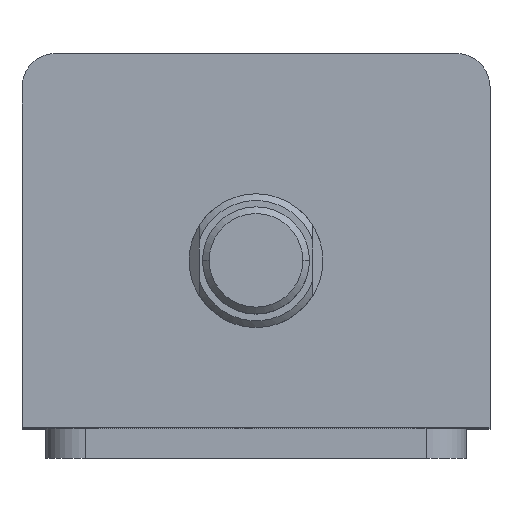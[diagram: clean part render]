
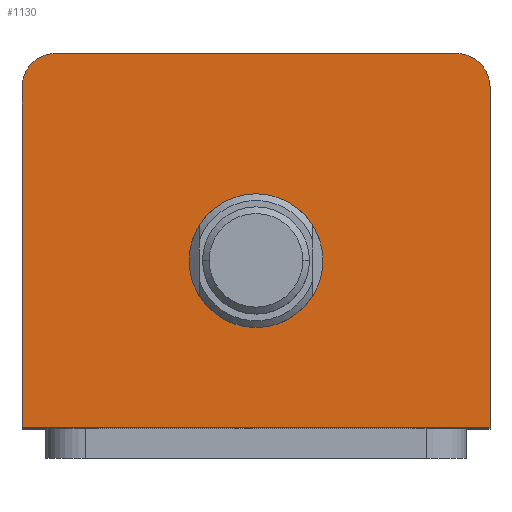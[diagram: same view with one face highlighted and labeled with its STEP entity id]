
A CAD part, top view. The second image highlights one B-rep face of the part: STEP entity #1130.
In plain terms, the highlighted planar face has unit normal (0, 0, 1).
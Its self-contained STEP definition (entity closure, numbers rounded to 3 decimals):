
#639 = CARTESIAN_POINT ( 'NONE',  ( 10., -3., 109. ) ) ;
#644 = CARTESIAN_POINT ( 'NONE',  ( 35., 23., 109. ) ) ;
#674 = CARTESIAN_POINT ( 'NONE',  ( 35., -28., 109. ) ) ;
#724 = CARTESIAN_POINT ( 'NONE',  ( -10., -3., 109. ) ) ;
#793 = CARTESIAN_POINT ( 'NONE',  ( -35., 23., 109. ) ) ;
#798 = CARTESIAN_POINT ( 'NONE',  ( -35., -28., 109. ) ) ;
#800 = CARTESIAN_POINT ( 'NONE',  ( -30., 28., 109. ) ) ;
#810 = CARTESIAN_POINT ( 'NONE',  ( 30., 28., 109. ) ) ;
#979 = DIRECTION ( 'NONE',  ( 1., 0., 0. ) ) ;
#981 = DIRECTION ( 'NONE',  ( 0., 0., 1. ) ) ;
#988 = PLANE ( 'NONE',  #1354 ) ;
#991 = CARTESIAN_POINT ( 'NONE',  ( 0., 0., 109. ) ) ;
#1130 = ADVANCED_FACE ( 'NONE', ( #2676, #2681 ), #988, .T. ) ;
#1195 = AXIS2_PLACEMENT_3D ( 'NONE', #2531, #2530, #2528 ) ;
#1197 = AXIS2_PLACEMENT_3D ( 'NONE', #2516, #2513, #2512 ) ;
#1204 = AXIS2_PLACEMENT_3D ( 'NONE', #1699, #1698, #1697 ) ;
#1229 = AXIS2_PLACEMENT_3D ( 'NONE', #1927, #2044, #1814 ) ;
#1354 = AXIS2_PLACEMENT_3D ( 'NONE', #991, #981, #979 ) ;
#1386 = ORIENTED_EDGE ( 'NONE', *, *, #2045, .T. ) ;
#1388 = ORIENTED_EDGE ( 'NONE', *, *, #2133, .T. ) ;
#1390 = ORIENTED_EDGE ( 'NONE', *, *, #2124, .T. ) ;
#1391 = ORIENTED_EDGE ( 'NONE', *, *, #2084, .T. ) ;
#1392 = ORIENTED_EDGE ( 'NONE', *, *, #2108, .T. ) ;
#1393 = ORIENTED_EDGE ( 'NONE', *, *, #1956, .T. ) ;
#1394 = ORIENTED_EDGE ( 'NONE', *, *, #2019, .F. ) ;
#1395 = ORIENTED_EDGE ( 'NONE', *, *, #2165, .F. ) ;
#1436 = VERTEX_POINT ( 'NONE', #810 ) ;
#1442 = VERTEX_POINT ( 'NONE', #800 ) ;
#1443 = VERTEX_POINT ( 'NONE', #798 ) ;
#1446 = VERTEX_POINT ( 'NONE', #793 ) ;
#1494 = VERTEX_POINT ( 'NONE', #724 ) ;
#1529 = VERTEX_POINT ( 'NONE', #674 ) ;
#1549 = VERTEX_POINT ( 'NONE', #644 ) ;
#1554 = VERTEX_POINT ( 'NONE', #639 ) ;
#1590 = EDGE_LOOP ( 'NONE', ( #1393, #1392, #1391, #1390, #1388, #1386 ) ) ;
#1619 = EDGE_LOOP ( 'NONE', ( #1395, #1394 ) ) ;
#1697 = DIRECTION ( 'NONE',  ( 1., 0., 0. ) ) ;
#1698 = DIRECTION ( 'NONE',  ( 0., 0., 1. ) ) ;
#1699 = CARTESIAN_POINT ( 'NONE',  ( 30., 23., 109. ) ) ;
#1747 = DIRECTION ( 'NONE',  ( -1., 0., 0. ) ) ;
#1751 = CARTESIAN_POINT ( 'NONE',  ( -35., 28., 109. ) ) ;
#1814 = DIRECTION ( 'NONE',  ( 1., 0., 0. ) ) ;
#1865 = DIRECTION ( 'NONE',  ( 1., 0., 0. ) ) ;
#1927 = CARTESIAN_POINT ( 'NONE',  ( 0., -3., 109. ) ) ;
#1956 = EDGE_CURVE ( 'NONE', #1529, #1549, #2768, .T. ) ;
#2019 = EDGE_CURVE ( 'NONE', #1494, #1554, #2826, .T. ) ;
#2044 = DIRECTION ( 'NONE',  ( 0., 0., 1. ) ) ;
#2045 = EDGE_CURVE ( 'NONE', #1443, #1529, #2952, .T. ) ;
#2073 = CARTESIAN_POINT ( 'NONE',  ( -35., -28., 109. ) ) ;
#2084 = EDGE_CURVE ( 'NONE', #1436, #1442, #2998, .T. ) ;
#2108 = EDGE_CURVE ( 'NONE', #1549, #1436, #3014, .T. ) ;
#2124 = EDGE_CURVE ( 'NONE', #1442, #1446, #3027, .T. ) ;
#2133 = EDGE_CURVE ( 'NONE', #1446, #1443, #3033, .T. ) ;
#2157 = CARTESIAN_POINT ( 'NONE',  ( 35., 28., 109. ) ) ;
#2165 = EDGE_CURVE ( 'NONE', #1554, #1494, #3063, .T. ) ;
#2187 = DIRECTION ( 'NONE',  ( 0., 1., 0. ) ) ;
#2474 = DIRECTION ( 'NONE',  ( 0., -1., 0. ) ) ;
#2482 = CARTESIAN_POINT ( 'NONE',  ( -35., 28., 109. ) ) ;
#2512 = DIRECTION ( 'NONE',  ( 1., 0., 0. ) ) ;
#2513 = DIRECTION ( 'NONE',  ( 0., 0., 1. ) ) ;
#2516 = CARTESIAN_POINT ( 'NONE',  ( -30., 23., 109. ) ) ;
#2528 = DIRECTION ( 'NONE',  ( 1., 0., 0. ) ) ;
#2530 = DIRECTION ( 'NONE',  ( 0., 0., 1. ) ) ;
#2531 = CARTESIAN_POINT ( 'NONE',  ( 0., -3., 109. ) ) ;
#2676 = FACE_BOUND ( 'NONE', #1619, .T. ) ;
#2681 = FACE_OUTER_BOUND ( 'NONE', #1590, .T. ) ;
#2768 = LINE ( 'NONE', #2157, #2774 ) ;
#2774 = VECTOR ( 'NONE', #2187, 1000. ) ;
#2826 = CIRCLE ( 'NONE', #1229, 10. ) ;
#2952 = LINE ( 'NONE', #2073, #2959 ) ;
#2959 = VECTOR ( 'NONE', #1865, 1000. ) ;
#2998 = LINE ( 'NONE', #1751, #3001 ) ;
#3001 = VECTOR ( 'NONE', #1747, 1000. ) ;
#3014 = CIRCLE ( 'NONE', #1204, 5. ) ;
#3027 = CIRCLE ( 'NONE', #1197, 5. ) ;
#3033 = LINE ( 'NONE', #2482, #3036 ) ;
#3036 = VECTOR ( 'NONE', #2474, 1000. ) ;
#3063 = CIRCLE ( 'NONE', #1195, 10. ) ;
